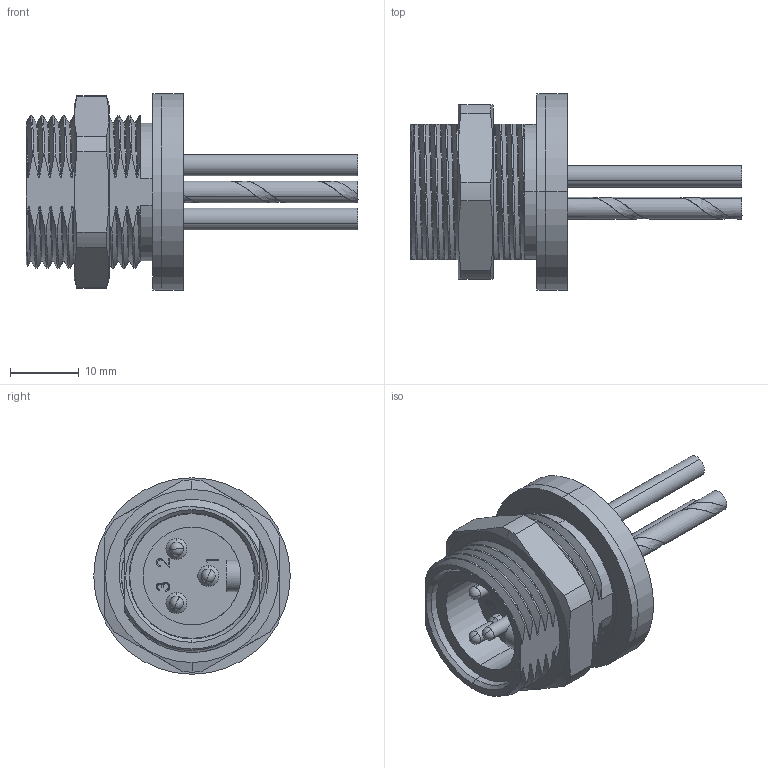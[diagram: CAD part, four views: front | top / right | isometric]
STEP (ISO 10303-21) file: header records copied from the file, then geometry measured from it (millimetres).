
FILE_DESCRIPTION (( 'STEP AP214' ), '1' );
FILE_NAME ('MIN-3MR-ZZ-BM.STEP', '2011-07-20T16:54:37', ( ' ' ), ( '' ), 'SwSTEP 2.0', 'SolidWorks 2011', '' );
FILE_SCHEMA (( 'AUTOMOTIVE_DESIGN' ));
Length unit declared in the file: inch
Products named in the file (1): MIN-3MR-ZZ-BM
Bounding box: 48.29 x 28.57 x 28.57 mm (x, y, z)
Volume: 9394.8 mm3; surface area: 7024.7 mm2
Topology: 3 solids, 3 shells, 248 faces, 683 edges, 449 vertices
Faces by surface type: bspline 94, cylinder 87, plane 46, cone 15, sphere 6
Entity records: 38602 total; most frequent: CARTESIAN_POINT 30133, ORIENTED_EDGE 1354, DIRECTION 763, EDGE_CURVE 677, VERTEX_POINT 449, AXIS2_PLACEMENT_3D 277, EDGE_LOOP 266, LENGTH_MEASURE_WITH_UNIT 249
